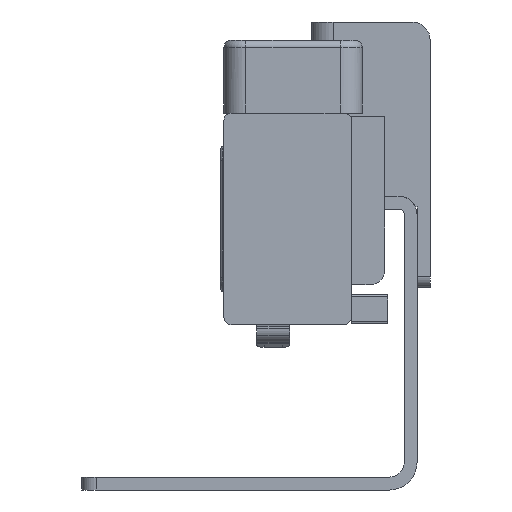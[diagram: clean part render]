
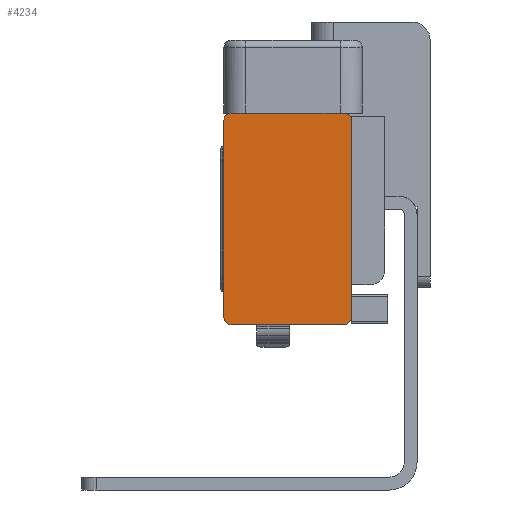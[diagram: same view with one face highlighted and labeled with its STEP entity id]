
A CAD part, left-side view. The second image highlights one B-rep face of the part: STEP entity #4234.
In plain terms, the highlighted planar face has unit normal (-1, 0, 0).
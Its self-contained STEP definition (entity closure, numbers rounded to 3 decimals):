
#64 = DIRECTION ( 'NONE',  ( 0., 0., 1. ) ) ;
#171 = FACE_OUTER_BOUND ( 'NONE', #5975, .T. ) ;
#405 = CARTESIAN_POINT ( 'NONE',  ( -326.999, 9., -59.46 ) ) ;
#438 = ORIENTED_EDGE ( 'NONE', *, *, #7597, .F. ) ;
#503 = VECTOR ( 'NONE', #1487, 1000. ) ;
#527 = CARTESIAN_POINT ( 'NONE',  ( -326.999, 25.5, -32.43 ) ) ;
#562 = ORIENTED_EDGE ( 'NONE', *, *, #3252, .F. ) ;
#913 = CARTESIAN_POINT ( 'NONE',  ( -326.999, 9., -32.43 ) ) ;
#953 = DIRECTION ( 'NONE',  ( 0., 0., 1. ) ) ;
#1020 = CARTESIAN_POINT ( 'NONE',  ( -326.999, 25.5, -59.46 ) ) ;
#1140 = DIRECTION ( 'NONE',  ( 0., 0., 1. ) ) ;
#1270 = DIRECTION ( 'NONE',  ( 1., 0., 0. ) ) ;
#1446 = ORIENTED_EDGE ( 'NONE', *, *, #1893, .F. ) ;
#1487 = DIRECTION ( 'NONE',  ( 0., 0., -1. ) ) ;
#1504 = VECTOR ( 'NONE', #5681, 1000. ) ;
#1516 = EDGE_CURVE ( 'NONE', #5338, #3824, #2277, .T. ) ;
#1578 = VECTOR ( 'NONE', #1818, 1000. ) ;
#1688 = VERTEX_POINT ( 'NONE', #2371 ) ;
#1697 = VECTOR ( 'NONE', #953, 1000. ) ;
#1792 = EDGE_CURVE ( 'NONE', #1688, #6653, #6196, .T. ) ;
#1818 = DIRECTION ( 'NONE',  ( 0., 0., 1. ) ) ;
#1893 = EDGE_CURVE ( 'NONE', #3911, #3819, #7009, .T. ) ;
#2026 = EDGE_CURVE ( 'NONE', #3873, #3316, #3308, .T. ) ;
#2034 = CARTESIAN_POINT ( 'NONE',  ( -326.999, 25.53, -60.46 ) ) ;
#2277 = LINE ( 'NONE', #405, #503 ) ;
#2333 = CIRCLE ( 'NONE', #6706, 1. ) ;
#2371 = CARTESIAN_POINT ( 'NONE',  ( -326.999, 25.53, -60.46 ) ) ;
#2372 = DIRECTION ( 'NONE',  ( 1., 0., 0. ) ) ;
#2426 = AXIS2_PLACEMENT_3D ( 'NONE', #5965, #2372, #6532 ) ;
#2482 = CARTESIAN_POINT ( 'NONE',  ( -326.999, 26.5, -32.43 ) ) ;
#2597 = ORIENTED_EDGE ( 'NONE', *, *, #1792, .F. ) ;
#2748 = CARTESIAN_POINT ( 'NONE',  ( -326.999, 25.53, -60.46 ) ) ;
#2872 = CARTESIAN_POINT ( 'NONE',  ( -326.999, 10., -31.43 ) ) ;
#3055 = CARTESIAN_POINT ( 'NONE',  ( -326.999, 25.53, -59.49 ) ) ;
#3248 = ORIENTED_EDGE ( 'NONE', *, *, #1516, .F. ) ;
#3252 = EDGE_CURVE ( 'NONE', #6653, #5396, #4789, .T. ) ;
#3308 = LINE ( 'NONE', #5082, #1504 ) ;
#3316 = VERTEX_POINT ( 'NONE', #2034 ) ;
#3672 = DIRECTION ( 'NONE',  ( 1., 0., 0. ) ) ;
#3819 = VERTEX_POINT ( 'NONE', #6555 ) ;
#3824 = VERTEX_POINT ( 'NONE', #4193 ) ;
#3873 = VERTEX_POINT ( 'NONE', #6600 ) ;
#3911 = VERTEX_POINT ( 'NONE', #5447 ) ;
#3961 = CARTESIAN_POINT ( 'NONE',  ( -326.999, 26.5, -32.43 ) ) ;
#4135 = ORIENTED_EDGE ( 'NONE', *, *, #5289, .F. ) ;
#4153 = DIRECTION ( 'NONE',  ( 1., 0., 0. ) ) ;
#4193 = CARTESIAN_POINT ( 'NONE',  ( -326.999, 9., -59.46 ) ) ;
#4234 = ADVANCED_FACE ( 'NONE', ( #171 ), #6611, .F. ) ;
#4265 = ORIENTED_EDGE ( 'NONE', *, *, #5621, .F. ) ;
#4622 = ORIENTED_EDGE ( 'NONE', *, *, #2026, .F. ) ;
#4644 = DIRECTION ( 'NONE',  ( 0., 0., 1. ) ) ;
#4734 = DIRECTION ( 'NONE',  ( 1., 0., 0. ) ) ;
#4789 = LINE ( 'NONE', #2482, #1578 ) ;
#4846 = CARTESIAN_POINT ( 'NONE',  ( -326.999, 10., -59.46 ) ) ;
#5082 = CARTESIAN_POINT ( 'NONE',  ( -326.999, 25.5, -60.46 ) ) ;
#5222 = DIRECTION ( 'NONE',  ( 0., -1., 0. ) ) ;
#5289 = EDGE_CURVE ( 'NONE', #3824, #3873, #2333, .T. ) ;
#5338 = VERTEX_POINT ( 'NONE', #913 ) ;
#5396 = VERTEX_POINT ( 'NONE', #3961 ) ;
#5447 = CARTESIAN_POINT ( 'NONE',  ( -326.999, 25.5, -31.43 ) ) ;
#5467 = DIRECTION ( 'NONE',  ( 0., 0., 1. ) ) ;
#5535 = CIRCLE ( 'NONE', #2426, 1. ) ;
#5621 = EDGE_CURVE ( 'NONE', #3819, #5338, #5535, .T. ) ;
#5657 = VECTOR ( 'NONE', #5222, 1000. ) ;
#5681 = DIRECTION ( 'NONE',  ( 0., 1., 0. ) ) ;
#5923 = EDGE_CURVE ( 'NONE', #5396, #3911, #7585, .T. ) ;
#5965 = CARTESIAN_POINT ( 'NONE',  ( -326.999, 10., -32.43 ) ) ;
#5975 = EDGE_LOOP ( 'NONE', ( #3248, #4265, #1446, #6239, #562, #2597, #438, #4622, #4135 ) ) ;
#6196 = CIRCLE ( 'NONE', #6284, 1. ) ;
#6239 = ORIENTED_EDGE ( 'NONE', *, *, #5923, .F. ) ;
#6282 = AXIS2_PLACEMENT_3D ( 'NONE', #527, #4734, #1140 ) ;
#6284 = AXIS2_PLACEMENT_3D ( 'NONE', #1020, #4153, #4644 ) ;
#6458 = LINE ( 'NONE', #2748, #1697 ) ;
#6532 = DIRECTION ( 'NONE',  ( 0., 0., 1. ) ) ;
#6555 = CARTESIAN_POINT ( 'NONE',  ( -326.999, 10., -31.43 ) ) ;
#6600 = CARTESIAN_POINT ( 'NONE',  ( -326.999, 10., -60.46 ) ) ;
#6611 = PLANE ( 'NONE',  #6856 ) ;
#6653 = VERTEX_POINT ( 'NONE', #7267 ) ;
#6706 = AXIS2_PLACEMENT_3D ( 'NONE', #4846, #1270, #5467 ) ;
#6856 = AXIS2_PLACEMENT_3D ( 'NONE', #3055, #3672, #64 ) ;
#7009 = LINE ( 'NONE', #2872, #5657 ) ;
#7267 = CARTESIAN_POINT ( 'NONE',  ( -326.999, 26.5, -59.46 ) ) ;
#7585 = CIRCLE ( 'NONE', #6282, 1. ) ;
#7597 = EDGE_CURVE ( 'NONE', #3316, #1688, #6458, .T. ) ;
